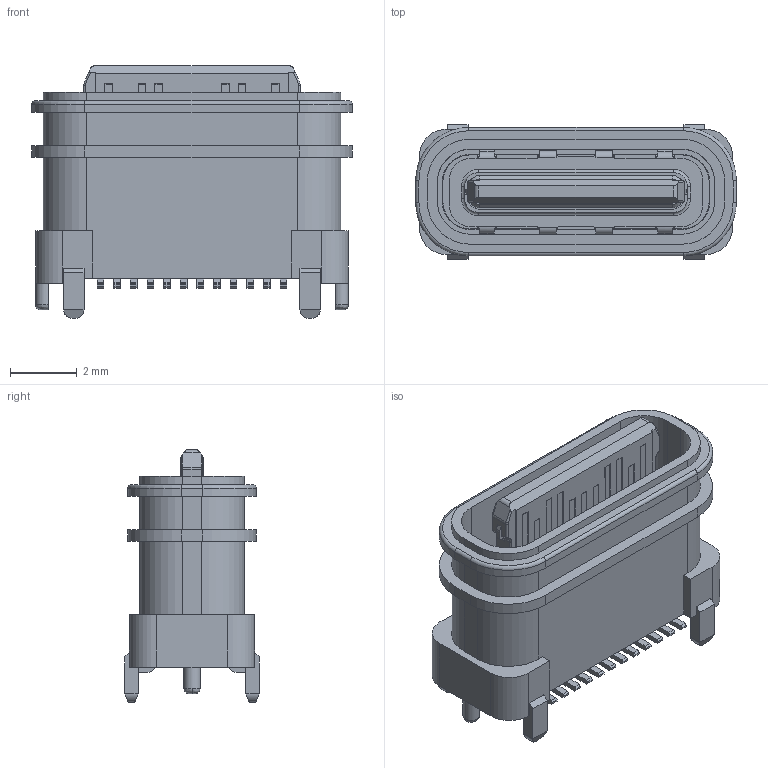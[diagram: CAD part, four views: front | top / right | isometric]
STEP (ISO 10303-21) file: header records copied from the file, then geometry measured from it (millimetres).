
FILE_DESCRIPTION((''),'2;1');
FILE_NAME('1040002_1_','2023-06-30T17:11:14',('Administrator'),(''),'CREO PARAMETRIC BY PTC INC, 2019080','CREO PARAMETRIC BY PTC INC, 2019080','');
FILE_SCHEMA(('CONFIG_CONTROL_DESIGN'));
Length unit declared in the file: millimetre
Products named in the file (1): 1040002_1_
Bounding box: 9.64 x 4.04 x 7.58 mm (x, y, z)
Volume: 110.3 mm3; surface area: 503.4 mm2
Topology: 1 solids, 8 shells, 1104 faces, 3091 edges, 1991 vertices
Faces by surface type: plane 807, cylinder 237, cone 32, torus 20, bspline 8
Entity records: 35606 total; most frequent: CARTESIAN_POINT 6886, ORIENTED_EDGE 6178, DIRECTION 5734, EDGE_CURVE 3089, VECTOR 2440, LINE 2440, VERTEX_POINT 1991, AXIS2_PLACEMENT_3D 1647
